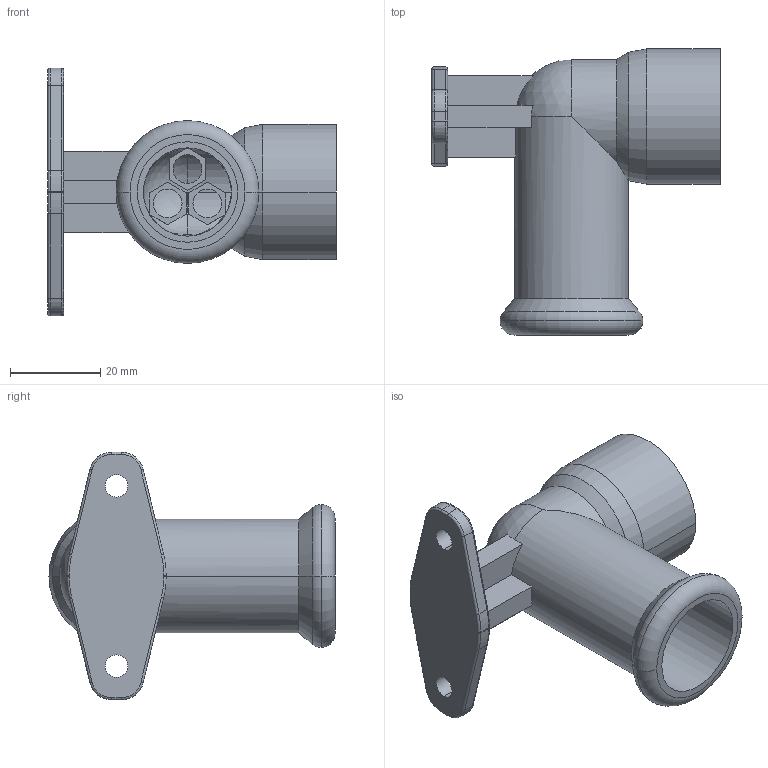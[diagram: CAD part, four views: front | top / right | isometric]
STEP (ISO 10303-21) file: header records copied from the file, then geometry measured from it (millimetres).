
FILE_DESCRIPTION(('OneSpaceDesigner STEP Export'),'2;1');
FILE_NAME('R2737 22xRp3-4.stp','2010-06-10T14:12:24',(''),(''),'OneSpace Designer STEP processor for AP214 (Solid Model)','OneSpace Modeling 15.00A 14-Mar-2007 (C) CoCreate Software GmbH','');
FILE_SCHEMA(('AUTOMOTIVE_DESIGN { 1 0 10303 214 1 1 1 1 }'));
Length unit declared in the file: millimetre
Products named in the file (2): R2737_22xRp3-4
Assembly tree (1 placements, depth 2):
  R2737_22xRp3-4
    R2737_22xRp3-4
Bounding box: 64 x 63.5 x 55 mm (x, y, z)
Volume: 20422.4 mm3; surface area: 16630.7 mm2
Topology: 1 solids, 1 shells, 148 faces, 371 edges, 230 vertices
Faces by surface type: plane 57, cylinder 57, torus 20, cone 10, sphere 2, bspline 2
Entity records: 5317 total; most frequent: CARTESIAN_POINT 1898, ORIENTED_EDGE 738, DIRECTION 667, EDGE_CURVE 369, AXIS2_PLACEMENT_3D 242, VERTEX_POINT 230, VECTOR 183, LINE 183
